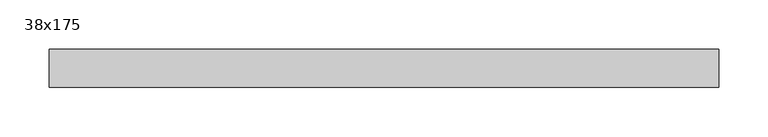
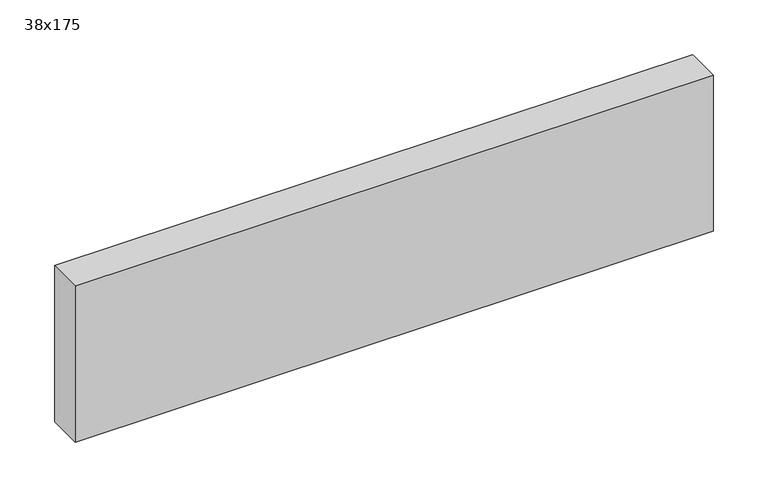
"""IFC4 building model written with IfcOpenShell, lengths in millimetres: beam geometry, Graded Timber : 38x175."""

from ifc_helpers import new_model, si_unit, frame, origin, place, context, project, spatial, polyline, outline, extrude, source, transform, mapped, element, save


def beam_38x175_fa43021f(model_context):
    return source(origin(), model_context, "Body", "SweptSolid", [
        extrude(outline(polyline([(319.4995746, 19.0), (319.4995746, -19.0), (-356.500424, -19.0), (-356.500424, 19.0), (319.4995746, 19.0)])), frame((0.0, 0.0, -87.5), z_axis=(0.0, 0.0, 1.0), x_axis=(1.0, 0.0, 0.0)), (0.0, 0.0, 1.0), 175.0),
    ])


if __name__ == "__main__":
    model = new_model("IFC4")
    model_context = context("Model", 3, world=origin())
    ifc_project = project(units=[si_unit("LENGTHUNIT", "METRE", prefix="MILLI")], contexts=[model_context])
    site = spatial("IfcSite", under=ifc_project)
    building = spatial("IfcBuilding", under=site)
    placement = place(None, origin())
    beam_38x175_shape = beam_38x175_fa43021f(model_context)
    element("IfcBeam", 1, ObjectType="Graded Timber : 38x175", at=placement, inside=building, context=model_context, shape_type="MappedRepresentation", body=[
        mapped(beam_38x175_shape, transform((0.0, 0.0, 0.0), x_axis=(1.0, 0.0, 0.0), y_axis=(0.0, 1.0, 0.0), z_axis=(0.0, 0.0, 1.0))),
    ])
    save(model, "model.ifc")
